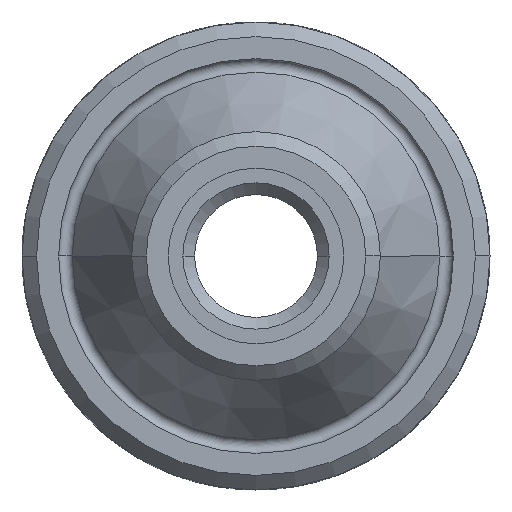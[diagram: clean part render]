
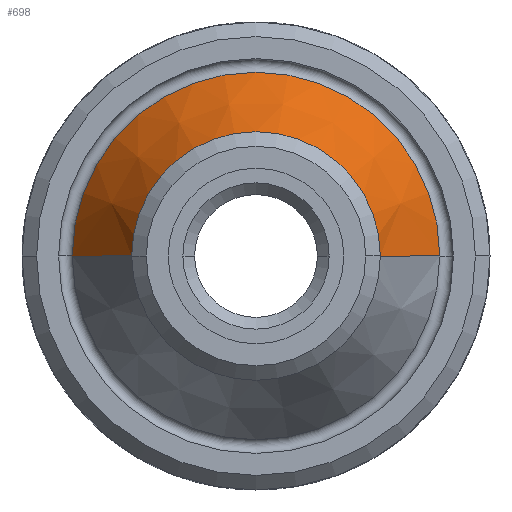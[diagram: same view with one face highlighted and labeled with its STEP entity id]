
A CAD part, left-side view. The second image highlights one B-rep face of the part: STEP entity #698.
In plain terms, the highlighted conical face has half-angle 30 degrees and reference radius 12.567 mm.
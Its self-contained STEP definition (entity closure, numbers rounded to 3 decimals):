
#24 = AXIS2_PLACEMENT_3D ( 'NONE', #930, #1185, #2227 ) ;
#61 = DIRECTION ( 'NONE',  ( 0.866, 0.5, 0. ) ) ;
#76 = VECTOR ( 'NONE', #61, 1000. ) ;
#150 = CIRCLE ( 'NONE', #24, 12.567 ) ;
#342 = CARTESIAN_POINT ( 'NONE',  ( 14.384, 0., 0. ) ) ;
#343 = VERTEX_POINT ( 'NONE', #2677 ) ;
#357 = CONICAL_SURFACE ( 'NONE', #1237, 12.567, 0.524 ) ;
#386 = DIRECTION ( 'NONE',  ( 0., 1., 0. ) ) ;
#469 = LINE ( 'NONE', #912, #76 ) ;
#667 = ORIENTED_EDGE ( 'NONE', *, *, #2676, .F. ) ;
#694 = VERTEX_POINT ( 'NONE', #2267 ) ;
#698 = ADVANCED_FACE ( 'PLANAR_3', ( #2222 ), #357, .T. ) ;
#736 = VERTEX_POINT ( 'NONE', #2318 ) ;
#741 = ORIENTED_EDGE ( 'NONE', *, *, #2027, .F. ) ;
#832 = LINE ( 'NONE', #1042, #1557 ) ;
#912 = CARTESIAN_POINT ( 'NONE',  ( 14.384, 12.567, 0. ) ) ;
#930 = CARTESIAN_POINT ( 'NONE',  ( 14.384, 0., 0. ) ) ;
#1042 = CARTESIAN_POINT ( 'NONE',  ( 14.384, -12.567, 0. ) ) ;
#1129 = ORIENTED_EDGE ( 'NONE', *, *, #1174, .T. ) ;
#1150 = ORIENTED_EDGE ( 'NONE', *, *, #2225, .T. ) ;
#1174 = EDGE_CURVE ( 'NONE', #694, #343, #150, .T. ) ;
#1185 = DIRECTION ( 'NONE',  ( -1., 0., 0. ) ) ;
#1237 = AXIS2_PLACEMENT_3D ( 'NONE', #342, #1414, #386 ) ;
#1414 = DIRECTION ( 'NONE',  ( 1., 0., 0. ) ) ;
#1539 = EDGE_LOOP ( 'NONE', ( #741, #1150, #1129, #667 ) ) ;
#1557 = VECTOR ( 'NONE', #2488, 1000. ) ;
#1563 = CARTESIAN_POINT ( 'NONE',  ( 7.34, 0., 0. ) ) ;
#1755 = VERTEX_POINT ( 'NONE', #2288 ) ;
#2027 = EDGE_CURVE ( 'NONE', #736, #1755, #2339, .T. ) ;
#2222 = FACE_OUTER_BOUND ( 'NONE', #1539, .T. ) ;
#2225 = EDGE_CURVE ( 'NONE', #736, #694, #832, .T. ) ;
#2227 = DIRECTION ( 'NONE',  ( 0., -1., 0. ) ) ;
#2253 = AXIS2_PLACEMENT_3D ( 'NONE', #1563, #2402, #2624 ) ;
#2267 = CARTESIAN_POINT ( 'NONE',  ( 14.384, -12.567, 0. ) ) ;
#2288 = CARTESIAN_POINT ( 'NONE',  ( 7.34, 8.5, 0. ) ) ;
#2318 = CARTESIAN_POINT ( 'NONE',  ( 7.34, -8.5, 0. ) ) ;
#2339 = CIRCLE ( 'NONE', #2253, 8.5 ) ;
#2402 = DIRECTION ( 'NONE',  ( -1., 0., 0. ) ) ;
#2488 = DIRECTION ( 'NONE',  ( 0.866, -0.5, 0. ) ) ;
#2624 = DIRECTION ( 'NONE',  ( 0., -1., 0. ) ) ;
#2676 = EDGE_CURVE ( 'NONE', #1755, #343, #469, .T. ) ;
#2677 = CARTESIAN_POINT ( 'NONE',  ( 14.384, 12.567, 0. ) ) ;
